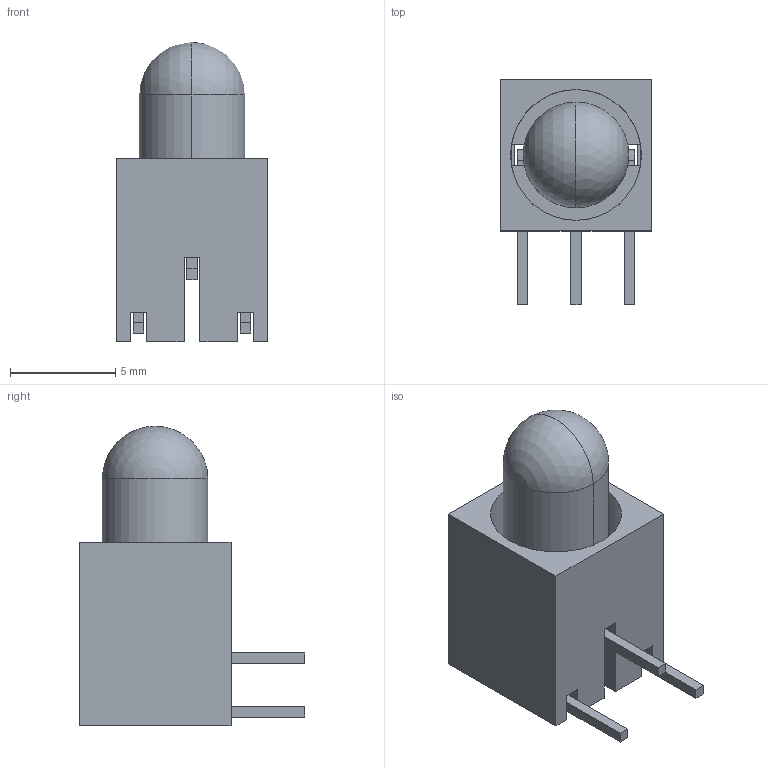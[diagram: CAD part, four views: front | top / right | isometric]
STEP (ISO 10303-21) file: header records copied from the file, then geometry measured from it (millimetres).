
FILE_DESCRIPTION (( 'STEP AP203' ), '1' );
FILE_NAME ('151 Series.STEP', '2016-08-03T07:28:23', ( '' ), ( '' ), 'SwSTEP 2.0', 'SolidWorks 2016', '' );
FILE_SCHEMA (( 'CONFIG_CONTROL_DESIGN' ));
Length unit declared in the file: millimetre
Products named in the file (3): LED_535_Pins Bent; 151 Series; PCH200RAG
Assembly tree (2 placements, depth 2):
  151 Series
    PCH200RAG
    LED_535_Pins Bent
Bounding box: 7.2 x 10.7 x 14.2 mm (x, y, z)
Volume: 469.4 mm3; surface area: 763.5 mm2
Topology: 2 solids, 2 shells, 67 faces, 190 edges, 123 vertices
Faces by surface type: plane 61, cylinder 4, sphere 2
Entity records: 2419 total; most frequent: CARTESIAN_POINT 379, ORIENTED_EDGE 372, DIRECTION 344, EDGE_CURVE 186, LINE 172, VECTOR 172, VERTEX_POINT 121, AXIS2_PLACEMENT_3D 86
